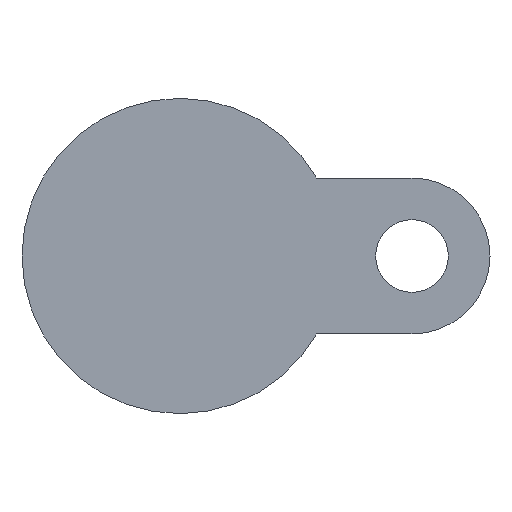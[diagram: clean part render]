
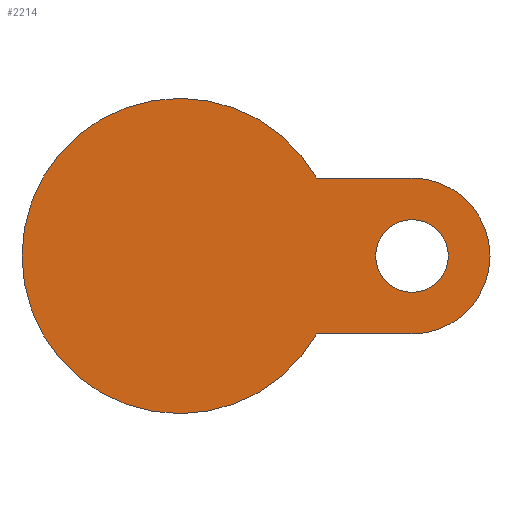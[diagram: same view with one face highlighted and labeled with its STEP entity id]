
A CAD part, front view. The second image highlights one B-rep face of the part: STEP entity #2214.
In plain terms, the highlighted planar face has unit normal (0, -1, 0).
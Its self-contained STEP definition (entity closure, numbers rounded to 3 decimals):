
#99 = VERTEX_POINT ( 'NONE', #4321 ) ;
#102 = CARTESIAN_POINT ( 'NONE',  ( 56., -17., 0. ) ) ;
#233 = ORIENTED_EDGE ( 'NONE', *, *, #4355, .T. ) ;
#373 = DIRECTION ( 'NONE',  ( 0., -1., 0. ) ) ;
#486 = AXIS2_PLACEMENT_3D ( 'NONE', #102, #4771, #3114 ) ;
#517 = EDGE_LOOP ( 'NONE', ( #2702, #1662 ) ) ;
#720 = VERTEX_POINT ( 'NONE', #5189 ) ;
#841 = CIRCLE ( 'NONE', #486, 18.8 ) ;
#1046 = LINE ( 'NONE', #3184, #1682 ) ;
#1050 = DIRECTION ( 'NONE',  ( -1., 0., 0. ) ) ;
#1117 = CARTESIAN_POINT ( 'NONE',  ( 56., -17., 18.8 ) ) ;
#1125 = DIRECTION ( 'NONE',  ( 0., -1., 0. ) ) ;
#1191 = CARTESIAN_POINT ( 'NONE',  ( -38., -17., 0. ) ) ;
#1281 = DIRECTION ( 'NONE',  ( 1., 0., 0. ) ) ;
#1469 = DIRECTION ( 'NONE',  ( 0., 1., 0. ) ) ;
#1598 = VERTEX_POINT ( 'NONE', #4344 ) ;
#1650 = EDGE_LOOP ( 'NONE', ( #5051, #233, #4071, #2188, #4318, #4223 ) ) ;
#1662 = ORIENTED_EDGE ( 'NONE', *, *, #3917, .F. ) ;
#1682 = VECTOR ( 'NONE', #3100, 1000. ) ;
#1759 = CIRCLE ( 'NONE', #4877, 8.75 ) ;
#1767 = VERTEX_POINT ( 'NONE', #1117 ) ;
#1982 = EDGE_CURVE ( 'NONE', #5410, #1767, #841, .T. ) ;
#2143 = CARTESIAN_POINT ( 'NONE',  ( 56., -17., -18.8 ) ) ;
#2188 = ORIENTED_EDGE ( 'NONE', *, *, #1982, .T. ) ;
#2210 = AXIS2_PLACEMENT_3D ( 'NONE', #2907, #1125, #2411 ) ;
#2214 = ADVANCED_FACE ( 'NONE', ( #4607, #5442 ), #3323, .T. ) ;
#2292 = EDGE_CURVE ( 'NONE', #99, #2727, #4747, .T. ) ;
#2310 = VERTEX_POINT ( 'NONE', #2143 ) ;
#2377 = EDGE_CURVE ( 'NONE', #2727, #1598, #4042, .T. ) ;
#2406 = DIRECTION ( 'NONE',  ( 1., 0., 0. ) ) ;
#2411 = DIRECTION ( 'NONE',  ( 1., 0., 0. ) ) ;
#2440 = DIRECTION ( 'NONE',  ( 1., 0., 0. ) ) ;
#2456 = DIRECTION ( 'NONE',  ( 0., -1., 0. ) ) ;
#2587 = CARTESIAN_POINT ( 'NONE',  ( 56., -17., -18.8 ) ) ;
#2702 = ORIENTED_EDGE ( 'NONE', *, *, #3742, .F. ) ;
#2720 = AXIS2_PLACEMENT_3D ( 'NONE', #3524, #4837, #2732 ) ;
#2727 = VERTEX_POINT ( 'NONE', #1191 ) ;
#2732 = DIRECTION ( 'NONE',  ( -1., 0., 0. ) ) ;
#2753 = AXIS2_PLACEMENT_3D ( 'NONE', #2824, #2456, #2406 ) ;
#2813 = AXIS2_PLACEMENT_3D ( 'NONE', #2994, #373, #5019 ) ;
#2816 = VERTEX_POINT ( 'NONE', #5444 ) ;
#2824 = CARTESIAN_POINT ( 'NONE',  ( 56., -17., 0. ) ) ;
#2862 = CARTESIAN_POINT ( 'NONE',  ( 56., -17., 0. ) ) ;
#2907 = CARTESIAN_POINT ( 'NONE',  ( 56., -17., 0. ) ) ;
#2994 = CARTESIAN_POINT ( 'NONE',  ( 0., -17., 0. ) ) ;
#3100 = DIRECTION ( 'NONE',  ( -1., 0., 0. ) ) ;
#3114 = DIRECTION ( 'NONE',  ( 1., 0., 0. ) ) ;
#3184 = CARTESIAN_POINT ( 'NONE',  ( 20.593, -17., 18.8 ) ) ;
#3307 = EDGE_CURVE ( 'NONE', #1767, #1598, #1046, .T. ) ;
#3318 = DIRECTION ( 'NONE',  ( 0., -1., 0. ) ) ;
#3323 = PLANE ( 'NONE',  #2813 ) ;
#3363 = LINE ( 'NONE', #2587, #3530 ) ;
#3524 = CARTESIAN_POINT ( 'NONE',  ( 0., -17., 0. ) ) ;
#3530 = VECTOR ( 'NONE', #1281, 1000. ) ;
#3742 = EDGE_CURVE ( 'NONE', #2816, #720, #4246, .T. ) ;
#3917 = EDGE_CURVE ( 'NONE', #720, #2816, #1759, .T. ) ;
#4042 = CIRCLE ( 'NONE', #2720, 38. ) ;
#4045 = AXIS2_PLACEMENT_3D ( 'NONE', #4853, #1469, #1050 ) ;
#4071 = ORIENTED_EDGE ( 'NONE', *, *, #5413, .T. ) ;
#4223 = ORIENTED_EDGE ( 'NONE', *, *, #2377, .F. ) ;
#4246 = CIRCLE ( 'NONE', #2753, 8.75 ) ;
#4318 = ORIENTED_EDGE ( 'NONE', *, *, #3307, .T. ) ;
#4321 = CARTESIAN_POINT ( 'NONE',  ( 33.024, -17., -18.8 ) ) ;
#4344 = CARTESIAN_POINT ( 'NONE',  ( 33.024, -17., 18.8 ) ) ;
#4355 = EDGE_CURVE ( 'NONE', #99, #2310, #3363, .T. ) ;
#4512 = CARTESIAN_POINT ( 'NONE',  ( 74.8, -17., 0. ) ) ;
#4607 = FACE_OUTER_BOUND ( 'NONE', #1650, .T. ) ;
#4619 = CIRCLE ( 'NONE', #2210, 18.8 ) ;
#4747 = CIRCLE ( 'NONE', #4045, 38. ) ;
#4771 = DIRECTION ( 'NONE',  ( 0., -1., 0. ) ) ;
#4837 = DIRECTION ( 'NONE',  ( 0., 1., 0. ) ) ;
#4853 = CARTESIAN_POINT ( 'NONE',  ( 0., -17., 0. ) ) ;
#4877 = AXIS2_PLACEMENT_3D ( 'NONE', #2862, #3318, #2440 ) ;
#5019 = DIRECTION ( 'NONE',  ( 1., 0., 0. ) ) ;
#5051 = ORIENTED_EDGE ( 'NONE', *, *, #2292, .F. ) ;
#5189 = CARTESIAN_POINT ( 'NONE',  ( 47.25, -17., 0. ) ) ;
#5410 = VERTEX_POINT ( 'NONE', #4512 ) ;
#5413 = EDGE_CURVE ( 'NONE', #2310, #5410, #4619, .T. ) ;
#5442 = FACE_BOUND ( 'NONE', #517, .T. ) ;
#5444 = CARTESIAN_POINT ( 'NONE',  ( 64.75, -17., 0. ) ) ;
